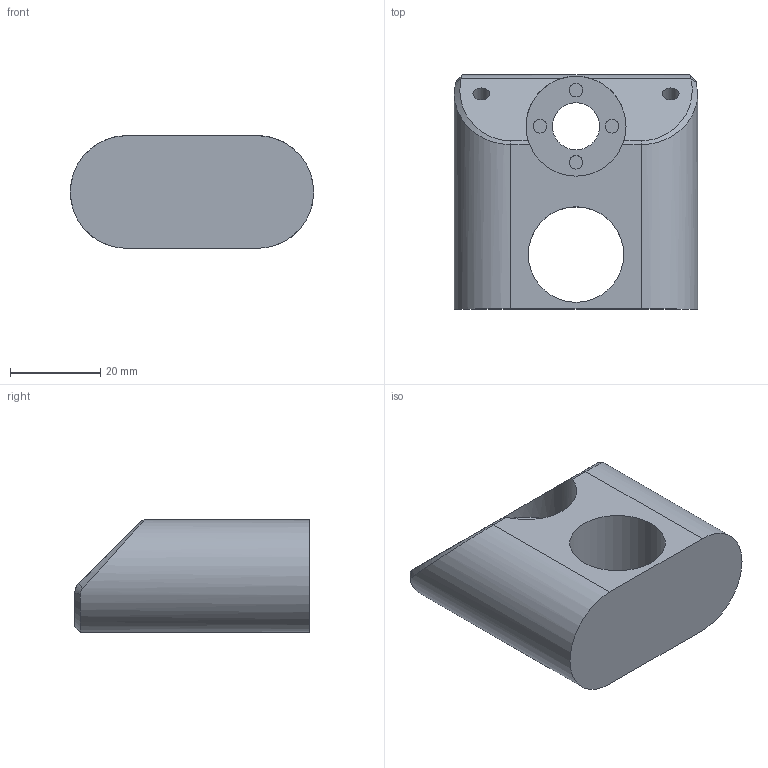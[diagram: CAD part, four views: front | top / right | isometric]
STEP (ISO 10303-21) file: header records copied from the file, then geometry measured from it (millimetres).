
FILE_DESCRIPTION( ( '' ), ' ' );
FILE_NAME( '/vol/tmp/translate-7021307728013691075/58c11b7b0f87ac0fd6974740.step', '2017-03-09T09:08:12', ( '' ), ( '' ), ' ', ' ', ' ' );
FILE_SCHEMA( ( 'AUTOMOTIVE_DESIGN { 1 0 10303 214 1 1 1 1 }' ) );
Length unit declared in the file: metre
Products named in the file (1): Cart
Bounding box: 54 x 52 x 25 mm (x, y, z)
Volume: 43704.9 mm3; surface area: 11131.2 mm2
Topology: 1 solids, 1 shells, 36 faces, 75 edges, 47 vertices
Faces by surface type: plane 16, cylinder 13, bspline 4, cone 3
Full cylindrical faces by diameter (mm): 3 x4, 3.1 x1, 3.75 x2, 10.45 x1, 21.2 x1, 22.2 x1
Entity records: 1360 total; most frequent: CARTESIAN_POINT 347, DIRECTION 143, ORIENTED_EDGE 124, AXIS2_PLACEMENT_3D 63, EDGE_CURVE 62, EDGE_LOOP 57, FACE_OUTER_BOUND 46, VERTEX_POINT 46
